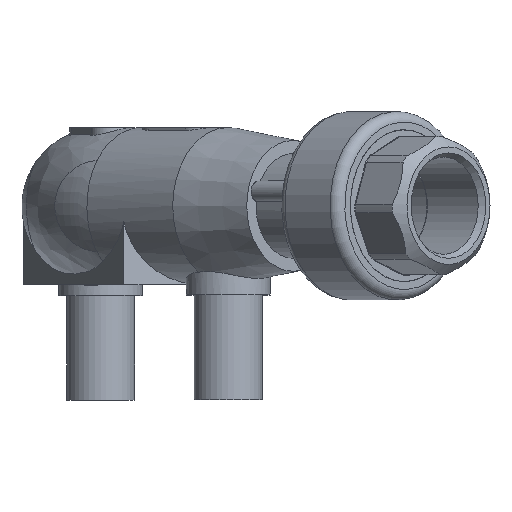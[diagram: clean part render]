
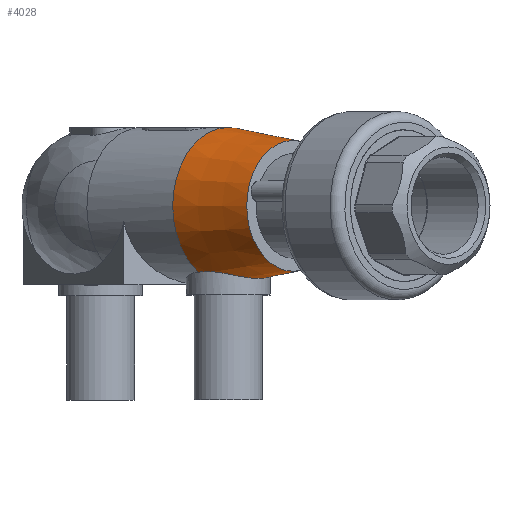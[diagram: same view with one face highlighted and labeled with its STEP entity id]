
A CAD part, top view. The second image highlights one B-rep face of the part: STEP entity #4028.
In plain terms, the highlighted conical face has half-angle 8.13 degrees and reference radius 15 mm.
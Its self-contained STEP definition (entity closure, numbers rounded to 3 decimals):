
#41=CONICAL_SURFACE('',#5093,15.,0.142);
#657=CIRCLE('',#5044,15.);
#664=CIRCLE('',#5066,12.5);
#1157=ORIENTED_EDGE('',*,*,#2266,.F.);
#1158=ORIENTED_EDGE('',*,*,#2218,.F.);
#1159=ORIENTED_EDGE('',*,*,#2269,.T.);
#2218=EDGE_CURVE('',#2809,#2810,#657,.T.);
#2266=EDGE_CURVE('',#2810,#2809,#3226,.T.);
#2269=EDGE_CURVE('',#2850,#2850,#664,.T.);
#2809=VERTEX_POINT('',#7487);
#2810=VERTEX_POINT('',#7489);
#2850=VERTEX_POINT('',#7972);
#3226=B_SPLINE_CURVE_WITH_KNOTS('',3,(#7955,#7956,#7957,#7958,#7959,#7960,
#7961,#7962,#7963,#7964,#7965),.UNSPECIFIED.,.F.,.F.,(4,1,1,1,1,1,1,1,4),
(0.007,0.01,0.014,0.017,
0.02,0.023,0.026,0.029,
0.032),.UNSPECIFIED.);
#3317=EDGE_LOOP('',(#1157,#1158));
#3318=EDGE_LOOP('',(#1159));
#3672=FACE_BOUND('',#3317,.T.);
#3673=FACE_BOUND('',#3318,.T.);
#4028=ADVANCED_FACE('',(#3672,#3673),#41,.T.);
#5044=AXIS2_PLACEMENT_3D('',#7488,#5590,#5591);
#5066=AXIS2_PLACEMENT_3D('',#7971,#5646,#5647);
#5093=AXIS2_PLACEMENT_3D('',#8083,#5700,#5701);
#5590=DIRECTION('',(-0.707,0.,-0.707));
#5591=DIRECTION('',(-0.707,0.,0.707));
#5646=DIRECTION('',(-0.707,0.,-0.707));
#5647=DIRECTION('',(-0.707,0.,0.707));
#5700=DIRECTION('',(-0.707,0.,-0.707));
#5701=DIRECTION('',(-0.707,0.,0.707));
#7487=CARTESIAN_POINT('',(18.738,-12.689,30.052));
#7488=CARTESIAN_POINT('',(24.395,0.,24.395));
#7489=CARTESIAN_POINT('',(30.052,-12.689,18.738));
#7955=CARTESIAN_POINT('',(30.052,-12.689,18.738));
#7956=CARTESIAN_POINT('',(30.786,-12.513,19.472));
#7957=CARTESIAN_POINT('',(31.994,-12.434,21.277));
#7958=CARTESIAN_POINT('',(32.598,-13.004,24.421));
#7959=CARTESIAN_POINT('',(31.984,-13.664,27.517));
#7960=CARTESIAN_POINT('',(30.203,-13.954,30.203));
#7961=CARTESIAN_POINT('',(27.512,-13.664,31.988));
#7962=CARTESIAN_POINT('',(24.404,-13.001,32.598));
#7963=CARTESIAN_POINT('',(21.276,-12.435,31.992));
#7964=CARTESIAN_POINT('',(19.474,-12.513,30.787));
#7965=CARTESIAN_POINT('',(18.738,-12.689,30.052));
#7971=CARTESIAN_POINT('',(36.77,0.,36.77));
#7972=CARTESIAN_POINT('',(27.931,0.,45.608));
#8083=CARTESIAN_POINT('',(24.395,0.,24.395));
